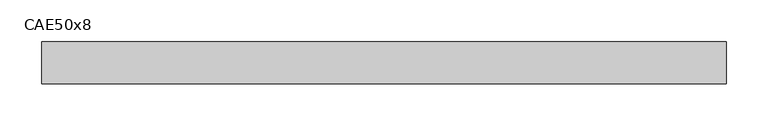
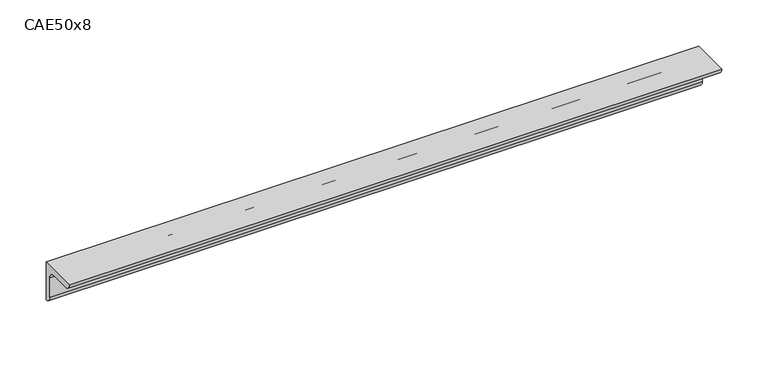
"""IFC4 building model written with IfcOpenShell, lengths in millimetres: beam geometry, L-Cornières : CAE50x8."""

from ifc_helpers import new_model, si_unit, point, frame, frame_2d, origin, place, context, project, spatial, polyline, circle_curve, trimmed, segment, composite_curve, outline, extrude, source, transform, mapped, element, save


def cae50x8_96b748bd(model_context):
    return source(origin(), model_context, "Body", "SweptSolid", [
        extrude(outline(composite_curve([segment(polyline([(15.2, 15.2), (15.2, -34.8)]), True, "CONTINUOUS"), segment(trimmed(circle_curve(frame_2d((15.2, -26.8)), 8.0), [point((15.2, -34.8))], [point((7.2, -26.8))], False, "CARTESIAN"), True, "CONTINUOUS"), segment(polyline([(7.2, -26.8), (7.2, -0.8)]), True, "CONTINUOUS"), segment(trimmed(circle_curve(frame_2d((-0.8, -0.8)), 8.0), [point((7.2, -0.8))], [point((-0.8, 7.2))], True, "CARTESIAN"), True, "CONTINUOUS"), segment(polyline([(-0.8, 7.2), (-26.8, 7.2)]), True, "CONTINUOUS"), segment(trimmed(circle_curve(frame_2d((-26.8, 15.2)), 8.0), [point((-26.8, 7.2))], [point((-34.8, 15.2))], False, "CARTESIAN"), True, "CONTINUOUS"), segment(polyline([(-34.8, 15.2), (15.2, 15.2)]), True, "CONTINUOUS")], self_intersect=False)), frame((-412.0, 0.0, 0.0), z_axis=(1.0, 0.0, 0.0), x_axis=(0.0, 1.0, 0.0)), (0.0, 0.0, 1.0), 815.0),
    ])


if __name__ == "__main__":
    model = new_model("IFC4")
    model_context = context("Model", 3, world=origin())
    ifc_project = project(units=[si_unit("LENGTHUNIT", "METRE", prefix="MILLI")], contexts=[model_context])
    site = spatial("IfcSite", under=ifc_project)
    building = spatial("IfcBuilding", under=site)
    placement = place(None, origin())
    cae50x8_shape = cae50x8_96b748bd(model_context)
    element("IfcBeam", 1, ObjectType="L-Cornières : CAE50x8", at=placement, inside=building, context=model_context, shape_type="MappedRepresentation", body=[
        mapped(cae50x8_shape, transform((0.0, 0.0, 0.0), x_axis=(1.0, 0.0, 0.0), y_axis=(0.0, 1.0, 0.0), z_axis=(0.0, 0.0, 1.0))),
    ])
    save(model, "model.ifc")
